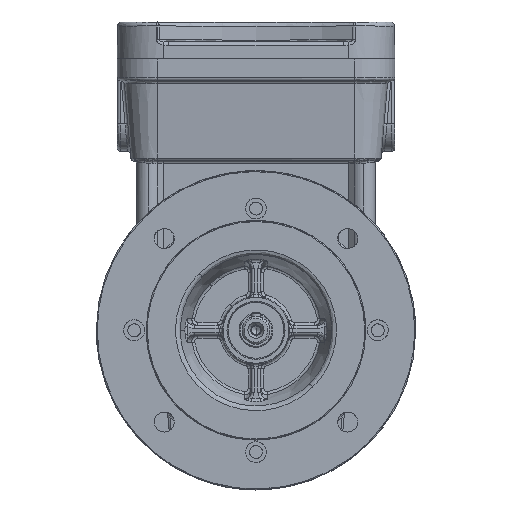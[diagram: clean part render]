
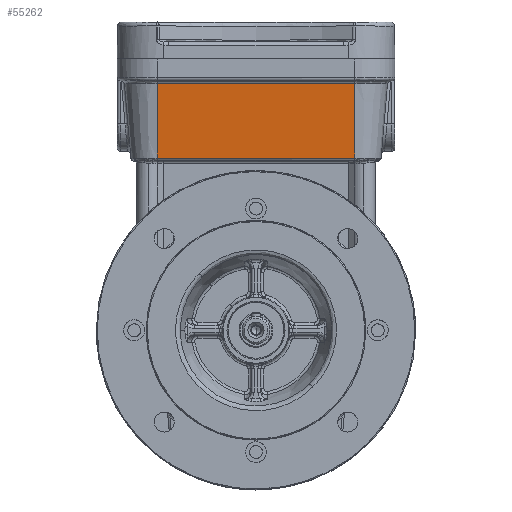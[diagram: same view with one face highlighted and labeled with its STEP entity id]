
A CAD part, top view. The second image highlights one B-rep face of the part: STEP entity #55262.
In plain terms, the highlighted planar face has unit normal (0, -0.087, 0.996).
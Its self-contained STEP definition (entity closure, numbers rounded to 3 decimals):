
#331 = CARTESIAN_POINT ( 'NONE',  ( 49.5, 104.86, 129.238 ) ) ;
#7520 = DIRECTION ( 'NONE',  ( 0., -0.087, 0.996 ) ) ;
#9829 = VERTEX_POINT ( 'NONE', #57925 ) ;
#14395 = LINE ( 'NONE', #43851, #19060 ) ;
#18926 = VECTOR ( 'NONE', #65230, 1000. ) ;
#19060 = VECTOR ( 'NONE', #58788, 1000. ) ;
#21815 = PLANE ( 'NONE',  #54826 ) ;
#23616 = ORIENTED_EDGE ( 'NONE', *, *, #34118, .T. ) ;
#24400 = CARTESIAN_POINT ( 'NONE',  ( -49.5, 104.86, 129.238 ) ) ;
#25166 = VERTEX_POINT ( 'NONE', #27589 ) ;
#27589 = CARTESIAN_POINT ( 'NONE',  ( 49.5, 123.631, 130.88 ) ) ;
#34118 = EDGE_CURVE ( 'NONE', #70064, #9829, #46800, .T. ) ;
#34620 = VERTEX_POINT ( 'NONE', #91124 ) ;
#38030 = EDGE_CURVE ( 'NONE', #34620, #25166, #86129, .T. ) ;
#41028 = EDGE_LOOP ( 'NONE', ( #89755, #53119, #23616, #47907 ) ) ;
#42106 = LINE ( 'NONE', #57781, #18926 ) ;
#43720 = CARTESIAN_POINT ( 'NONE',  ( -49.5, 123.631, 130.88 ) ) ;
#43851 = CARTESIAN_POINT ( 'NONE',  ( 0., 123.631, 130.88 ) ) ;
#44513 = VECTOR ( 'NONE', #54873, 1000. ) ;
#46800 = LINE ( 'NONE', #24400, #44513 ) ;
#47907 = ORIENTED_EDGE ( 'NONE', *, *, #63638, .T. ) ;
#51997 = CARTESIAN_POINT ( 'NONE',  ( 49.5, 86.369, 127.62 ) ) ;
#53119 = ORIENTED_EDGE ( 'NONE', *, *, #81220, .T. ) ;
#54826 = AXIS2_PLACEMENT_3D ( 'NONE', #51997, #7520, #58175 ) ;
#54873 = DIRECTION ( 'NONE',  ( 0., -0.996, -0.087 ) ) ;
#55262 = ADVANCED_FACE ( 'NONE', ( #80592 ), #21815, .T. ) ;
#57781 = CARTESIAN_POINT ( 'NONE',  ( 0., 86.369, 127.62 ) ) ;
#57925 = CARTESIAN_POINT ( 'NONE',  ( -49.5, 86.369, 127.62 ) ) ;
#58175 = DIRECTION ( 'NONE',  ( -1., 0., 0. ) ) ;
#58788 = DIRECTION ( 'NONE',  ( -1., 0., 0. ) ) ;
#63638 = EDGE_CURVE ( 'NONE', #9829, #34620, #42106, .T. ) ;
#65230 = DIRECTION ( 'NONE',  ( 1., 0., 0. ) ) ;
#66330 = VECTOR ( 'NONE', #89325, 1000. ) ;
#70064 = VERTEX_POINT ( 'NONE', #43720 ) ;
#80592 = FACE_OUTER_BOUND ( 'NONE', #41028, .T. ) ;
#81220 = EDGE_CURVE ( 'NONE', #25166, #70064, #14395, .T. ) ;
#86129 = LINE ( 'NONE', #331, #66330 ) ;
#89325 = DIRECTION ( 'NONE',  ( 0., 0.996, 0.087 ) ) ;
#89755 = ORIENTED_EDGE ( 'NONE', *, *, #38030, .T. ) ;
#91124 = CARTESIAN_POINT ( 'NONE',  ( 49.5, 86.369, 127.62 ) ) ;
